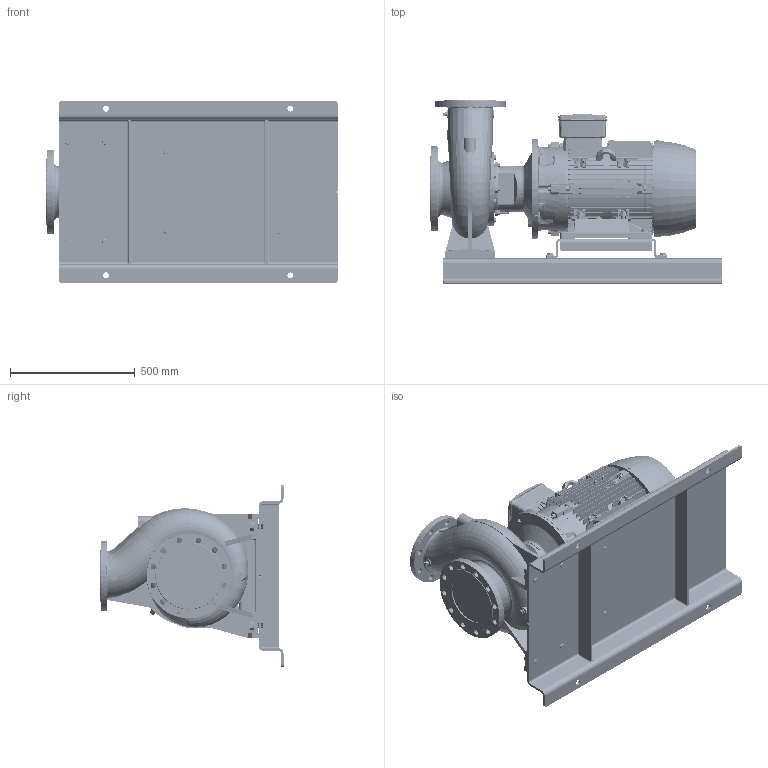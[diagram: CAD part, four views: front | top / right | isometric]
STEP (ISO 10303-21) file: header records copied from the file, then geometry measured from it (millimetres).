
FILE_DESCRIPTION (( 'STEP AP214' ), '1' );
FILE_NAME ('GSD2 150-200_37.0_(200ML)_W21_BP.STEP', '2024-08-01T23:25:31', ( '' ), ( '' ), 'SwSTEP 2.0', 'SolidWorks 2019', '' );
FILE_SCHEMA (( 'AUTOMOTIVE_DESIGN' ));
Length unit declared in the file: millimetre
Products named in the file (22): 150-200-200M_L_______; Parametric bolt and washer_SFT-A351B; Parametric bolt and washer_SFT-A403B; Parametric Flat Washer_M16; Parametric Flat Washer_M20; CGS11-5273; Parametric bolt and washer_SFT-A359B; Parametric bolt_SFT-A403B; N9S4 GSDA-94A F1-1832969-00; 200M_L ALIE3_W21T_B35; GSD2  150-200_37.0_(200ML)_W21_BP; Parametric bolt_SFT-A351B; Parametric bolt_SFT-A359B
Assembly tree (40 placements, depth 3):
  GSD2  150-200_37.0_(200ML)_W21_BP
    150-200-200M_L_______
    N9S4 GSDA-94A F1-1832969-00
    CGS11-5273
    Parametric bolt and washer_SFT-A403B
      Parametric bolt_SFT-A403B
      Parametric Flat Washer_M20
    Parametric bolt and washer_SFT-A403B
      Parametric bolt_SFT-A403B
      Parametric Flat Washer_M20
    Parametric bolt and washer_SFT-A403B
      Parametric bolt_SFT-A403B
      Parametric Flat Washer_M20
    Parametric bolt and washer_SFT-A403B
      Parametric bolt_SFT-A403B
      Parametric Flat Washer_M20
    Parametric bolt and washer_SFT-A351B
      Parametric bolt_SFT-A351B
      Parametric Flat Washer_M16
    Parametric bolt and washer_SFT-A351B
      Parametric bolt_SFT-A351B
      Parametric Flat Washer_M16
    Parametric bolt and washer_SFT-A351B
      Parametric bolt_SFT-A351B
      Parametric Flat Washer_M16
    Parametric bolt and washer_SFT-A351B
      Parametric bolt_SFT-A351B
      Parametric Flat Washer_M16
    Parametric bolt and washer_SFT-A359B
      Parametric bolt_SFT-A359B
      Parametric Flat Washer_M16
    Parametric bolt and washer_SFT-A359B
      Parametric bolt_SFT-A359B
      Parametric Flat Washer_M16
    Parametric bolt and washer_SFT-A359B
      Parametric bolt_SFT-A359B
      Parametric Flat Washer_M16
    Parametric bolt and washer_SFT-A359B
      Parametric bolt_SFT-A359B
      Parametric Flat Washer_M16
    200M_L ALIE3_W21T_B35
Bounding box: 1170 x 735 x 730 mm (x, y, z)
Volume: 117015826.2 mm3; surface area: 7425809.3 mm2
Topology: 55 solids, 65 shells, 7495 faces, 19312 edges, 12363 vertices
Faces by surface type: plane 4287, cylinder 1397, bspline 1010, cone 590, torus 207, sphere 4
Entity records: 303339 total; most frequent: CARTESIAN_POINT 144013, ORIENTED_EDGE 35432, DIRECTION 28745, EDGE_CURVE 17716, VERTEX_POINT 11400, VECTOR 10899, LINE 10899, AXIS2_PLACEMENT_3D 8923
